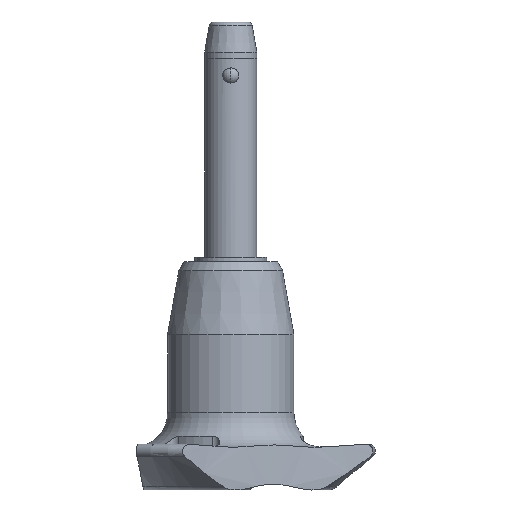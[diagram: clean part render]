
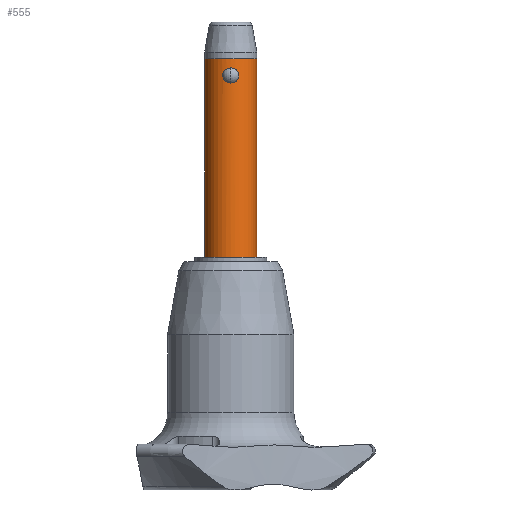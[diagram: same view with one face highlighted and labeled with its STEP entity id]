
A CAD part, front view. The second image highlights one B-rep face of the part: STEP entity #555.
In plain terms, the highlighted cylindrical face has radius 3 mm (diameter 6 mm), a partial arc.
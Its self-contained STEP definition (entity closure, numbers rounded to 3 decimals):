
#12 = DIRECTION ( 'NONE',  ( 1., 0., 0. ) ) ;
#83 = EDGE_LOOP ( 'NONE', ( #2402, #2378 ) ) ;
#103 = B_SPLINE_CURVE_WITH_KNOTS ( 'NONE', 3,
 ( #2779, #853, #2511, #580, #808, #1442, #828, #2307, #148, #1884, #1009, #1872, #2728, #406, #2318, #591, #819, #1453 ),
 .UNSPECIFIED., .F., .F.,
 ( 4, 2, 2, 2, 2, 2, 2, 2, 4 ),
 ( 0.003, 0.003, 0.004, 0.004, 0.004, 0.005, 0.005, 0.005, 0.006 ),
 .UNSPECIFIED. ) ;
#148 = CARTESIAN_POINT ( 'NONE',  ( 0.937, -2.85, 0.744 ) ) ;
#162 = CARTESIAN_POINT ( 'NONE',  ( -0.911, -2.859, 0.63 ) ) ;
#188 = CYLINDRICAL_SURFACE ( 'NONE', #297, 3. ) ;
#217 = EDGE_CURVE ( 'NONE', #510, #2300, #2538, .T. ) ;
#243 = CARTESIAN_POINT ( 'NONE',  ( 0., -3., 1.732 ) ) ;
#283 = CARTESIAN_POINT ( 'NONE',  ( 0., -3., 0. ) ) ;
#297 = AXIS2_PLACEMENT_3D ( 'NONE', #1675, #2140, #2741 ) ;
#317 = EDGE_CURVE ( 'NONE', #510, #2436, #462, .T. ) ;
#343 = B_SPLINE_CURVE_WITH_KNOTS ( 'NONE', 3,
 ( #2727, #957, #1663, #2098, #2521, #1821, #2680, #2110, #590, #2317, #162, #818, #2533, #827, #759, #1702, #1687, #2549 ),
 .UNSPECIFIED., .F., .F.,
 ( 4, 2, 2, 2, 2, 2, 2, 2, 4 ),
 ( 0., 0., 0.001, 0.001, 0.001, 0.002, 0.002, 0.002, 0.003 ),
 .UNSPECIFIED. ) ;
#406 = CARTESIAN_POINT ( 'NONE',  ( 0.564, -2.948, 1.57 ) ) ;
#462 = LINE ( 'NONE', #2454, #1775 ) ;
#476 = VECTOR ( 'NONE', #1661, 1000. ) ;
#490 = ORIENTED_EDGE ( 'NONE', *, *, #1322, .F. ) ;
#510 = VERTEX_POINT ( 'NONE', #1598 ) ;
#555 = ADVANCED_FACE ( 'NONE', ( #2086, #1664 ), #188, .T. ) ;
#580 = CARTESIAN_POINT ( 'NONE',  ( 0.459, -2.967, 0.101 ) ) ;
#590 = CARTESIAN_POINT ( 'NONE',  ( -0.937, -2.85, 0.986 ) ) ;
#591 = CARTESIAN_POINT ( 'NONE',  ( 0.238, -2.993, 1.712 ) ) ;
#617 = EDGE_CURVE ( 'NONE', #2565, #1407, #103, .T. ) ;
#710 = EDGE_CURVE ( 'NONE', #2314, #2436, #1605, .T. ) ;
#716 = DIRECTION ( 'NONE',  ( 0., 0., -1. ) ) ;
#759 = CARTESIAN_POINT ( 'NONE',  ( -0.46, -2.967, 0.101 ) ) ;
#808 = CARTESIAN_POINT ( 'NONE',  ( 0.563, -2.948, 0.162 ) ) ;
#818 = CARTESIAN_POINT ( 'NONE',  ( -0.812, -2.889, 0.414 ) ) ;
#819 = CARTESIAN_POINT ( 'NONE',  ( 0.12, -3., 1.732 ) ) ;
#827 = CARTESIAN_POINT ( 'NONE',  ( -0.564, -2.948, 0.162 ) ) ;
#828 = CARTESIAN_POINT ( 'NONE',  ( 0.811, -2.889, 0.412 ) ) ;
#842 = CARTESIAN_POINT ( 'NONE',  ( 3., 0., 2.8 ) ) ;
#853 = CARTESIAN_POINT ( 'NONE',  ( 0.118, -3., 0. ) ) ;
#924 = DIRECTION ( 'NONE',  ( 0., 0., 1. ) ) ;
#957 = CARTESIAN_POINT ( 'NONE',  ( -0.12, -3., 1.732 ) ) ;
#979 = ORIENTED_EDGE ( 'NONE', *, *, #710, .F. ) ;
#1009 = CARTESIAN_POINT ( 'NONE',  ( 0.911, -2.859, 1.103 ) ) ;
#1088 = CARTESIAN_POINT ( 'NONE',  ( 0., 0., 2.8 ) ) ;
#1322 = EDGE_CURVE ( 'NONE', #2300, #2314, #2108, .T. ) ;
#1407 = VERTEX_POINT ( 'NONE', #243 ) ;
#1418 = ORIENTED_EDGE ( 'NONE', *, *, #317, .T. ) ;
#1419 = ORIENTED_EDGE ( 'NONE', *, *, #217, .F. ) ;
#1442 = CARTESIAN_POINT ( 'NONE',  ( 0.738, -2.909, 0.317 ) ) ;
#1453 = CARTESIAN_POINT ( 'NONE',  ( 0., -3., 1.732 ) ) ;
#1598 = CARTESIAN_POINT ( 'NONE',  ( 3., 0., -20. ) ) ;
#1600 = AXIS2_PLACEMENT_3D ( 'NONE', #2196, #716, #2447 ) ;
#1601 = AXIS2_PLACEMENT_3D ( 'NONE', #1088, #1948, #12 ) ;
#1605 = CIRCLE ( 'NONE', #1601, 3. ) ;
#1661 = DIRECTION ( 'NONE',  ( 0., 0., 1. ) ) ;
#1663 = CARTESIAN_POINT ( 'NONE',  ( -0.238, -2.993, 1.712 ) ) ;
#1664 = FACE_BOUND ( 'NONE', #83, .T. ) ;
#1675 = CARTESIAN_POINT ( 'NONE',  ( 0., 0., -20. ) ) ;
#1687 = CARTESIAN_POINT ( 'NONE',  ( -0.118, -3., 0. ) ) ;
#1702 = CARTESIAN_POINT ( 'NONE',  ( -0.238, -2.993, 0.021 ) ) ;
#1775 = VECTOR ( 'NONE', #924, 1000. ) ;
#1821 = CARTESIAN_POINT ( 'NONE',  ( -0.739, -2.909, 1.414 ) ) ;
#1872 = CARTESIAN_POINT ( 'NONE',  ( 0.812, -2.888, 1.317 ) ) ;
#1884 = CARTESIAN_POINT ( 'NONE',  ( 0.937, -2.85, 0.985 ) ) ;
#1948 = DIRECTION ( 'NONE',  ( 0., 0., 1. ) ) ;
#2086 = FACE_OUTER_BOUND ( 'NONE', #2700, .T. ) ;
#2098 = CARTESIAN_POINT ( 'NONE',  ( -0.461, -2.967, 1.63 ) ) ;
#2108 = LINE ( 'NONE', #2725, #476 ) ;
#2110 = CARTESIAN_POINT ( 'NONE',  ( -0.91, -2.859, 1.105 ) ) ;
#2140 = DIRECTION ( 'NONE',  ( 0., 0., 1. ) ) ;
#2196 = CARTESIAN_POINT ( 'NONE',  ( 0., 0., -20. ) ) ;
#2300 = VERTEX_POINT ( 'NONE', #2445 ) ;
#2307 = CARTESIAN_POINT ( 'NONE',  ( 0.91, -2.859, 0.626 ) ) ;
#2314 = VERTEX_POINT ( 'NONE', #2666 ) ;
#2317 = CARTESIAN_POINT ( 'NONE',  ( -0.937, -2.85, 0.749 ) ) ;
#2318 = CARTESIAN_POINT ( 'NONE',  ( 0.461, -2.966, 1.63 ) ) ;
#2378 = ORIENTED_EDGE ( 'NONE', *, *, #617, .F. ) ;
#2402 = ORIENTED_EDGE ( 'NONE', *, *, #2449, .F. ) ;
#2436 = VERTEX_POINT ( 'NONE', #842 ) ;
#2445 = CARTESIAN_POINT ( 'NONE',  ( -3., 0., -20. ) ) ;
#2447 = DIRECTION ( 'NONE',  ( 1., 0., 0. ) ) ;
#2449 = EDGE_CURVE ( 'NONE', #1407, #2565, #343, .T. ) ;
#2454 = CARTESIAN_POINT ( 'NONE',  ( 3., 0., -20. ) ) ;
#2511 = CARTESIAN_POINT ( 'NONE',  ( 0.238, -2.993, 0.021 ) ) ;
#2521 = CARTESIAN_POINT ( 'NONE',  ( -0.563, -2.948, 1.57 ) ) ;
#2533 = CARTESIAN_POINT ( 'NONE',  ( -0.74, -2.909, 0.318 ) ) ;
#2538 = CIRCLE ( 'NONE', #1600, 3. ) ;
#2549 = CARTESIAN_POINT ( 'NONE',  ( 0., -3., 0. ) ) ;
#2565 = VERTEX_POINT ( 'NONE', #283 ) ;
#2666 = CARTESIAN_POINT ( 'NONE',  ( -3., 0., 2.8 ) ) ;
#2680 = CARTESIAN_POINT ( 'NONE',  ( -0.811, -2.889, 1.319 ) ) ;
#2700 = EDGE_LOOP ( 'NONE', ( #490, #1419, #1418, #979 ) ) ;
#2725 = CARTESIAN_POINT ( 'NONE',  ( -3., 0., -20. ) ) ;
#2727 = CARTESIAN_POINT ( 'NONE',  ( 0., -3., 1.732 ) ) ;
#2728 = CARTESIAN_POINT ( 'NONE',  ( 0.74, -2.909, 1.414 ) ) ;
#2741 = DIRECTION ( 'NONE',  ( 1., 0., 0. ) ) ;
#2779 = CARTESIAN_POINT ( 'NONE',  ( 0., -3., 0. ) ) ;
